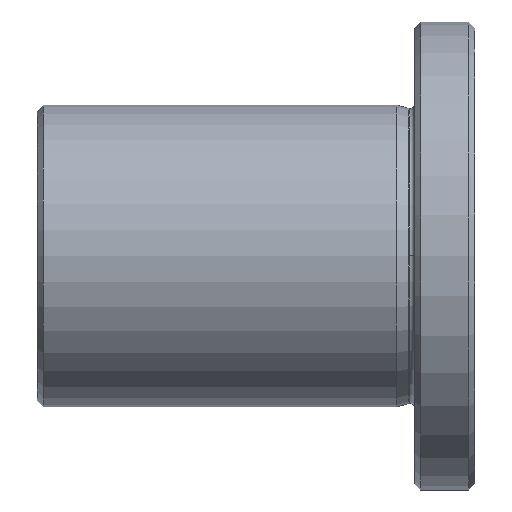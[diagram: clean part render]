
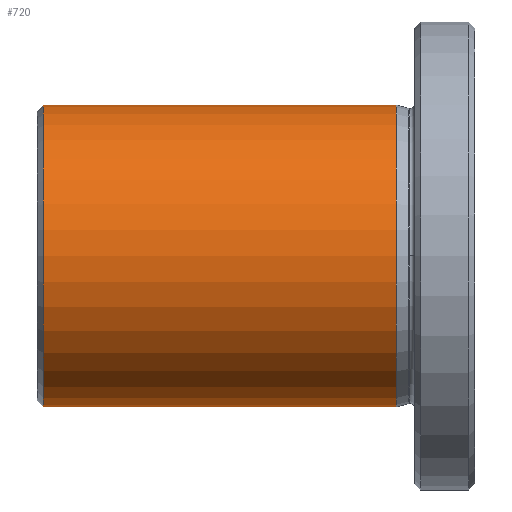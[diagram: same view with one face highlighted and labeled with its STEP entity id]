
A CAD part, top view. The second image highlights one B-rep face of the part: STEP entity #720.
In plain terms, the highlighted cylindrical face has radius 20 mm (diameter 40 mm), a partial arc.
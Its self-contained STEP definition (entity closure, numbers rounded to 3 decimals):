
#80 = DIRECTION ( 'NONE',  ( 0., 1., 0. ) ) ;
#123 = DIRECTION ( 'NONE',  ( 0., 1., 0. ) ) ;
#125 = CARTESIAN_POINT ( 'NONE',  ( 24.2, 20., 0. ) ) ;
#188 = EDGE_CURVE ( 'NONE', #810, #1392, #1499, .T. ) ;
#195 = CARTESIAN_POINT ( 'NONE',  ( 47.6, 0., 0. ) ) ;
#201 = CYLINDRICAL_SURFACE ( 'NONE', #1168, 20. ) ;
#262 = CARTESIAN_POINT ( 'NONE',  ( 47.6, 20., 0. ) ) ;
#335 = AXIS2_PLACEMENT_3D ( 'NONE', #195, #644, #1246 ) ;
#342 = VERTEX_POINT ( 'NONE', #262 ) ;
#429 = EDGE_CURVE ( 'NONE', #810, #499, #1205, .T. ) ;
#456 = DIRECTION ( 'NONE',  ( 1., 0., 0. ) ) ;
#485 = ORIENTED_EDGE ( 'NONE', *, *, #500, .F. ) ;
#499 = VERTEX_POINT ( 'NONE', #1178 ) ;
#500 = EDGE_CURVE ( 'NONE', #499, #342, #1080, .T. ) ;
#559 = CARTESIAN_POINT ( 'NONE',  ( 47.6, -20., 0. ) ) ;
#644 = DIRECTION ( 'NONE',  ( -1., 0., 0. ) ) ;
#665 = CARTESIAN_POINT ( 'NONE',  ( 24.2, 0., 0. ) ) ;
#704 = DIRECTION ( 'NONE',  ( -1., 0., 0. ) ) ;
#720 = ADVANCED_FACE ( 'NONE', ( #1258 ), #201, .T. ) ;
#756 = ORIENTED_EDGE ( 'NONE', *, *, #1275, .T. ) ;
#810 = VERTEX_POINT ( 'NONE', #1451 ) ;
#865 = AXIS2_PLACEMENT_3D ( 'NONE', #1297, #704, #123 ) ;
#913 = EDGE_LOOP ( 'NONE', ( #1341, #1061, #756, #485 ) ) ;
#934 = CIRCLE ( 'NONE', #335, 20. ) ;
#956 = DIRECTION ( 'NONE',  ( 1., 0., 0. ) ) ;
#1061 = ORIENTED_EDGE ( 'NONE', *, *, #188, .T. ) ;
#1080 = LINE ( 'NONE', #125, #1536 ) ;
#1138 = DIRECTION ( 'NONE',  ( 1., 0., 0. ) ) ;
#1168 = AXIS2_PLACEMENT_3D ( 'NONE', #665, #1138, #80 ) ;
#1178 = CARTESIAN_POINT ( 'NONE',  ( 0.8, 20., 0. ) ) ;
#1205 = CIRCLE ( 'NONE', #865, 20. ) ;
#1246 = DIRECTION ( 'NONE',  ( 0., 1., 0. ) ) ;
#1258 = FACE_OUTER_BOUND ( 'NONE', #913, .T. ) ;
#1270 = VECTOR ( 'NONE', #456, 1000. ) ;
#1273 = CARTESIAN_POINT ( 'NONE',  ( 24.2, -20., 0. ) ) ;
#1275 = EDGE_CURVE ( 'NONE', #1392, #342, #934, .T. ) ;
#1297 = CARTESIAN_POINT ( 'NONE',  ( 0.8, 0., 0. ) ) ;
#1341 = ORIENTED_EDGE ( 'NONE', *, *, #429, .F. ) ;
#1392 = VERTEX_POINT ( 'NONE', #559 ) ;
#1451 = CARTESIAN_POINT ( 'NONE',  ( 0.8, -20., 0. ) ) ;
#1499 = LINE ( 'NONE', #1273, #1270 ) ;
#1536 = VECTOR ( 'NONE', #956, 1000. ) ;
